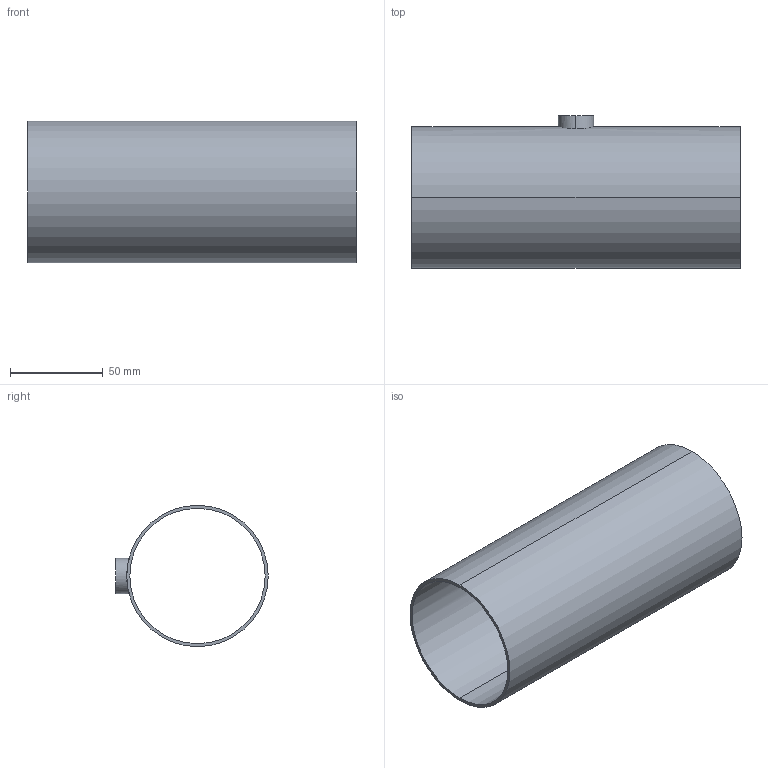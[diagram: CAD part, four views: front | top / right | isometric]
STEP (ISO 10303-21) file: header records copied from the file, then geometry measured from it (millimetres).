
FILE_DESCRIPTION (( 'STEP AP214' ), '1' );
FILE_NAME ('TEG7RS6L3.0x.75-...STEP', '2016-05-24T10:44:36', ( 'eran' ), ( '' ), 'SwSTEP 2.0', 'SolidWorks 2016', '' );
FILE_SCHEMA (( 'AUTOMOTIVE_DESIGN' ));
Length unit declared in the file: millimetre
Products named in the file (1): TEG7RS6L3.0x.75-..
Bounding box: 176.8 x 82.1 x 76.2 mm (x, y, z)
Volume: 68577 mm3; surface area: 83978.9 mm2
Topology: 1 solids, 1 shells, 11 faces, 24 edges, 16 vertices
Faces by surface type: cylinder 8, plane 3
Entity records: 536 total; most frequent: CARTESIAN_POINT 244, DIRECTION 56, ORIENTED_EDGE 48, EDGE_CURVE 24, AXIS2_PLACEMENT_3D 24, EDGE_LOOP 16, VERTEX_POINT 16, CIRCLE 12
